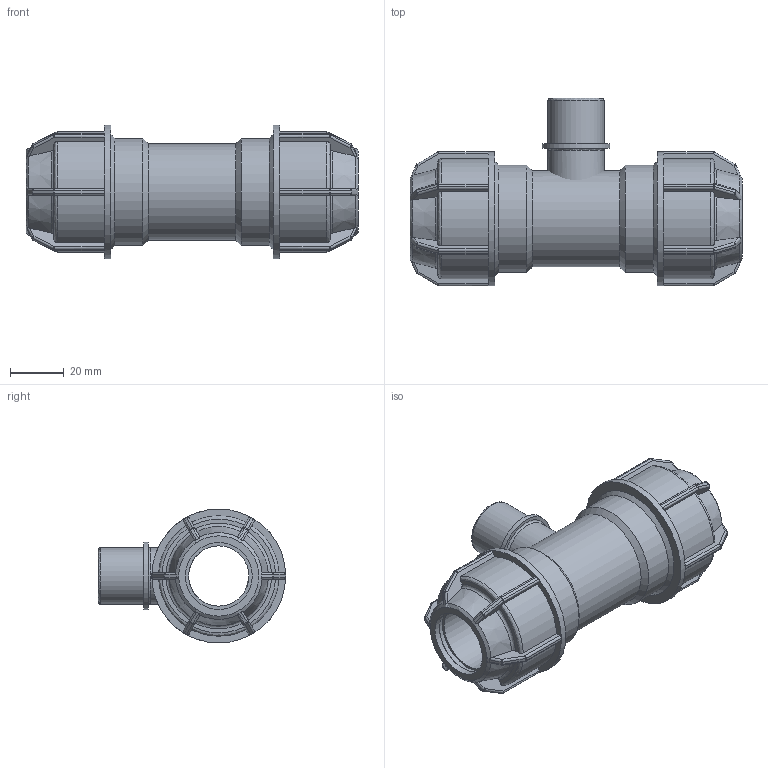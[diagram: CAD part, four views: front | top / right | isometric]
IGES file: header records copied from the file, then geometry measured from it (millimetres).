
Global section: file name: 148400025005.ipt; native system: Autodesk Inventor 2015; preprocessor: unknown; author: KIM; date: 20180409.131229; units: millimetre
Bounding box: 124 x 70 x 50 mm (x, y, z)
Volume: 106161.1 mm3; surface area: 35446.5 mm2
Topology: 2 solids, 2 shells, 415 faces, 1001 edges, 585 vertices
Faces by surface type: plane 197, cylinder 116, sphere 48, revolution 38, cone 16
Full cylindrical faces by diameter (mm): 20.955 x2, 25.146 x1, 36 x1, 40 x2, 50 x2
